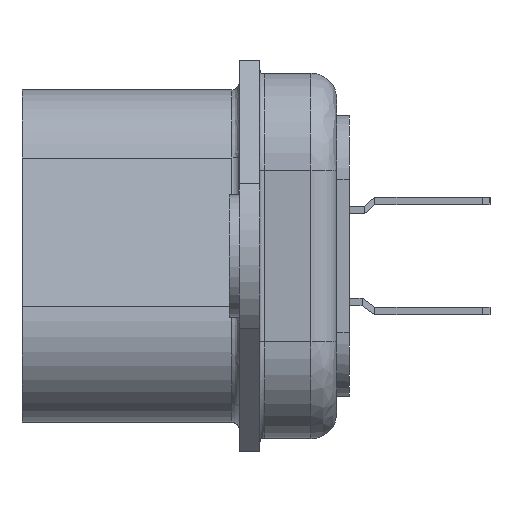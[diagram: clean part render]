
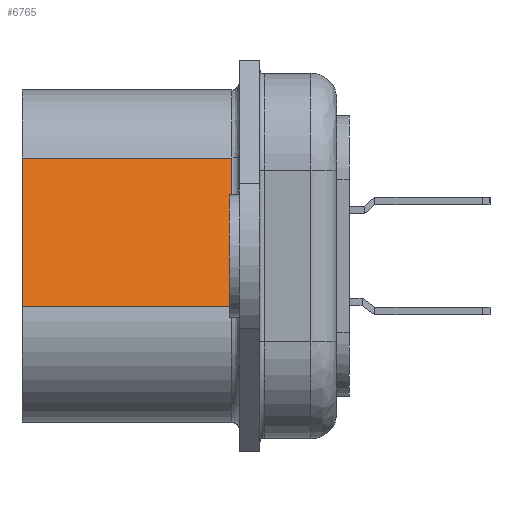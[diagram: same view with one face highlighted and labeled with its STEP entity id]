
A CAD part, left-side view. The second image highlights one B-rep face of the part: STEP entity #6765.
In plain terms, the highlighted planar face has unit normal (-0.966, 0, 0.259).
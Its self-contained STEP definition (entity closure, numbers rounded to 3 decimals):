
#1141 = DIRECTION ( 'NONE',  ( 0.259, 0., 0.966 ) ) ;
#1328 = CARTESIAN_POINT ( 'NONE',  ( -16.873, 0.85, 3.832 ) ) ;
#2410 = DIRECTION ( 'NONE',  ( 0., 1., 0. ) ) ;
#2677 = ORIENTED_EDGE ( 'NONE', *, *, #27497, .T. ) ;
#3844 = VERTEX_POINT ( 'NONE', #35146 ) ;
#6765 = ADVANCED_FACE ( 'NONE', ( #25615 ), #44435, .T. ) ;
#7504 = LINE ( 'NONE', #31560, #7529 ) ;
#7529 = VECTOR ( 'NONE', #1141, 1000. ) ;
#12155 = VERTEX_POINT ( 'NONE', #19168 ) ;
#12671 = EDGE_CURVE ( 'NONE', #40149, #12155, #48672, .T. ) ;
#13691 = LINE ( 'NONE', #18635, #20008 ) ;
#15664 = CARTESIAN_POINT ( 'NONE',  ( -16.873, 0.55, 3.832 ) ) ;
#16996 = DIRECTION ( 'NONE',  ( -0.966, 0., 0.259 ) ) ;
#18635 = CARTESIAN_POINT ( 'NONE',  ( -18.427, 0.55, -1.968 ) ) ;
#19168 = CARTESIAN_POINT ( 'NONE',  ( -16.873, 9.05, 3.832 ) ) ;
#19524 = CARTESIAN_POINT ( 'NONE',  ( -18.427, 9.05, -1.968 ) ) ;
#20008 = VECTOR ( 'NONE', #32522, 1000. ) ;
#21312 = CARTESIAN_POINT ( 'NONE',  ( -18.427, 0.55, -1.968 ) ) ;
#24621 = CARTESIAN_POINT ( 'NONE',  ( -18.427, 9.05, -1.968 ) ) ;
#25615 = FACE_OUTER_BOUND ( 'NONE', #46699, .T. ) ;
#27497 = EDGE_CURVE ( 'NONE', #3844, #40149, #7504, .T. ) ;
#29087 = LINE ( 'NONE', #19524, #32447 ) ;
#30046 = EDGE_CURVE ( 'NONE', #3844, #51303, #13691, .T. ) ;
#31560 = CARTESIAN_POINT ( 'NONE',  ( -18.452, 0.85, -2.061 ) ) ;
#32254 = VECTOR ( 'NONE', #2410, 1000. ) ;
#32447 = VECTOR ( 'NONE', #47586, 1000. ) ;
#32522 = DIRECTION ( 'NONE',  ( 0., 1., 0. ) ) ;
#35146 = CARTESIAN_POINT ( 'NONE',  ( -18.427, 0.85, -1.968 ) ) ;
#40102 = DIRECTION ( 'NONE',  ( 0.259, 0., 0.966 ) ) ;
#40149 = VERTEX_POINT ( 'NONE', #1328 ) ;
#44435 = PLANE ( 'NONE',  #52472 ) ;
#46000 = ORIENTED_EDGE ( 'NONE', *, *, #50408, .T. ) ;
#46699 = EDGE_LOOP ( 'NONE', ( #47249, #2677, #50354, #46000 ) ) ;
#47249 = ORIENTED_EDGE ( 'NONE', *, *, #30046, .F. ) ;
#47586 = DIRECTION ( 'NONE',  ( -0.259, 0., -0.966 ) ) ;
#48672 = LINE ( 'NONE', #15664, #32254 ) ;
#50354 = ORIENTED_EDGE ( 'NONE', *, *, #12671, .T. ) ;
#50408 = EDGE_CURVE ( 'NONE', #12155, #51303, #29087, .T. ) ;
#51303 = VERTEX_POINT ( 'NONE', #24621 ) ;
#52472 = AXIS2_PLACEMENT_3D ( 'NONE', #21312, #16996, #40102 ) ;
